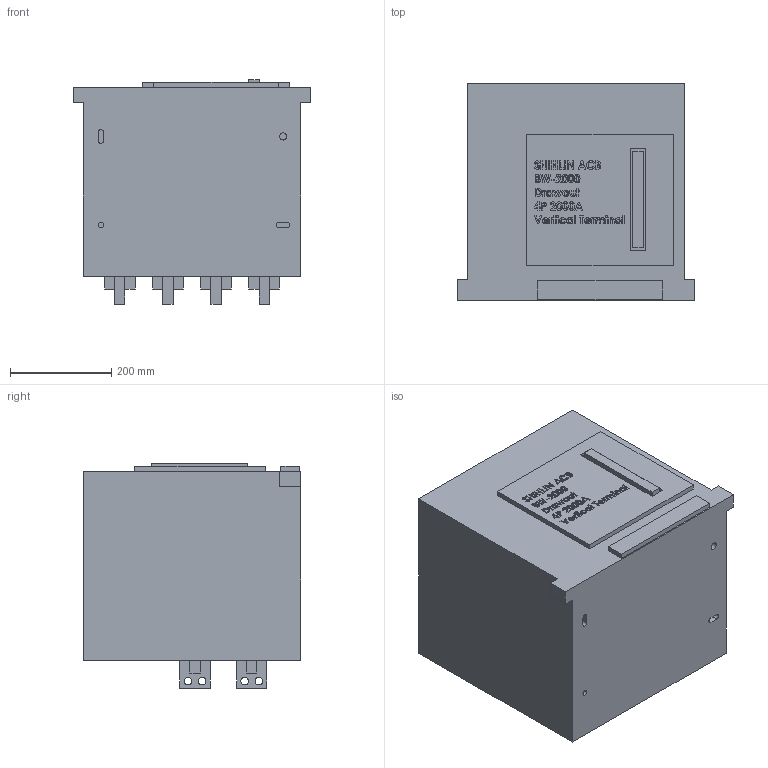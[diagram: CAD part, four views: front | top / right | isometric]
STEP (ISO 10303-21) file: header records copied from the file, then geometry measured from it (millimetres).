
FILE_DESCRIPTION (( 'STEP AP203' ), '1' );
FILE_NAME ('BW-2000-Drawout-4P-2000A-Vertical Terminal.STEP', '2016-11-03T01:08:59', ( '' ), ( '' ), 'SwSTEP 2.0', 'SolidWorks 2015', '' );
FILE_SCHEMA (( 'CONFIG_CONTROL_DESIGN' ));
Length unit declared in the file: millimetre
Products named in the file (1): BW-2000-Drawout-4P-2000A-Vertical Terminal
Bounding box: 470 x 430 x 443.5 mm (x, y, z)
Volume: 70526851.8 mm3; surface area: 1172767.5 mm2
Topology: 1 solids, 1 shells, 767 faces, 2037 edges, 1358 vertices
Faces by surface type: plane 503, bspline 223, cylinder 41
Entity records: 35832 total; most frequent: CARTESIAN_POINT 18042, ORIENTED_EDGE 4074, DIRECTION 2763, EDGE_CURVE 2037, LINE 1509, VECTOR 1509, VERTEX_POINT 1358, EDGE_LOOP 885
